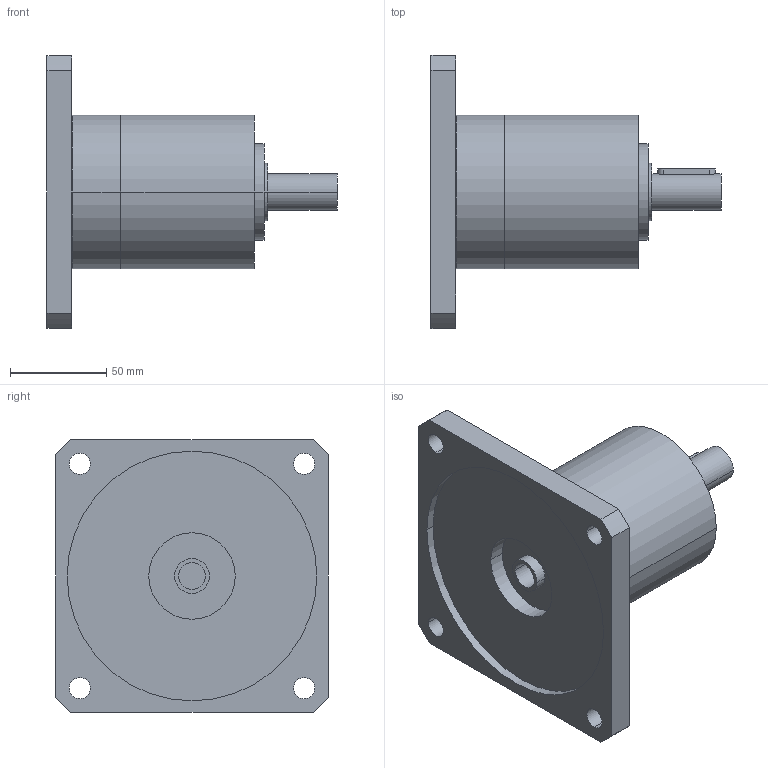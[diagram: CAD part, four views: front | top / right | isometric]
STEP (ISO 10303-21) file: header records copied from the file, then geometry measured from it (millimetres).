
FILE_DESCRIPTION(('CoCreate Modeling STEP Export'),'2;1');
FILE_NAME('GPR100_ig-3-4-5-6_19_B14_14_P16.stp','2014-08-26T10:07:12',(''),(''),'CoCreate Modeling STEP processor for AP214 (Solid Model)','CoCreate Modeling 16.00C 25-Feb-2009 (C) Parametric Technology GmbH','');
FILE_SCHEMA(('AUTOMOTIVE_DESIGN { 1 0 10303 214 1 1 1 1 }'));
Length unit declared in the file: millimetre
Products named in the file (2): GPR100_ig-3-4-5-6_19_B14_14_P16
Assembly tree (1 placements, depth 2):
  GPR100_ig-3-4-5-6_19_B14_14_P16
    GPR100_ig-3-4-5-6_19_B14_14_P16
Bounding box: 151 x 142 x 142 mm (x, y, z)
Volume: 676796.1 mm3; surface area: 81851.2 mm2
Topology: 1 solids, 1 shells, 70 faces, 187 edges, 131 vertices
Faces by surface type: cylinder 42, plane 22, cone 6
Entity records: 1934 total; most frequent: ORIENTED_EDGE 370, CARTESIAN_POINT 359, DIRECTION 262, EDGE_CURVE 185, VERTEX_POINT 131, AXIS2_PLACEMENT_3D 98, EDGE_LOOP 92, FACE_OUTER_BOUND 70
